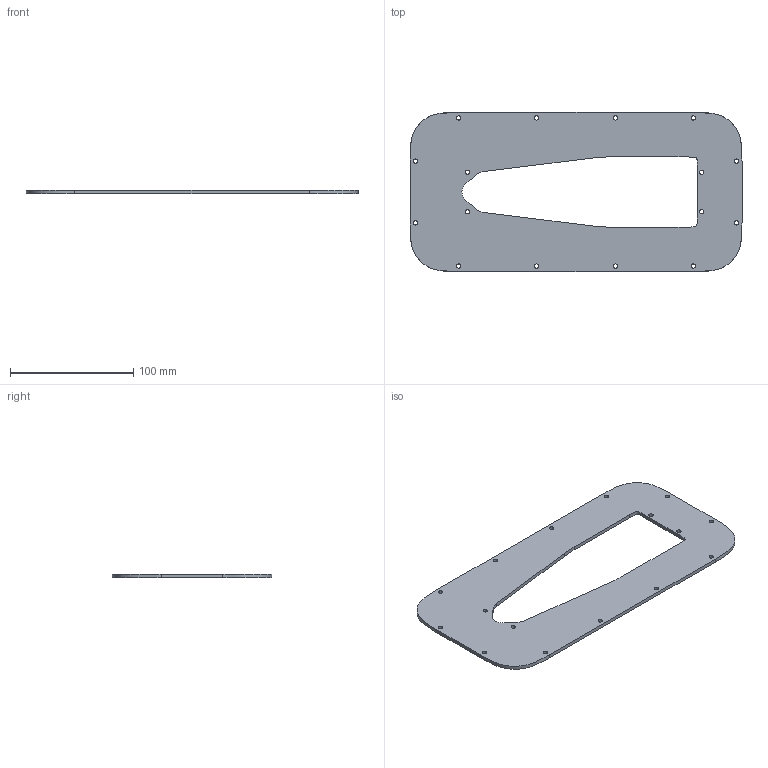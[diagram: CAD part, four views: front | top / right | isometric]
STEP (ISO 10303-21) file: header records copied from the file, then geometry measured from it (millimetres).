
FILE_DESCRIPTION(/* description */ (''),/* implementation_level */ '2;1');
FILE_NAME(/* name */ 'BOTTOM PANEL.step',/* time_stamp */ '2024-02-28T17:16:14Z',/* author */ (''),/* organization */ (''),/* preprocessor_version */ 'ST-DEVELOPER v20',/* originating_system */ 'Autodesk Translation Framework v12.20.1.177',/* authorisation */ '');
FILE_SCHEMA (('AUTOMOTIVE_DESIGN { 1 0 10303 214 3 1 1 }'));
Length unit declared in the file: millimetre
Products named in the file (1): BOTTOM PANEL
Bounding box: 269 x 129 x 3 mm (x, y, z)
Volume: 74058.2 mm3; surface area: 53506.3 mm2
Topology: 1 solids, 1 shells, 40 faces, 114 edges, 76 vertices
Faces by surface type: cylinder 21, plane 13, bspline 6
Full cylindrical faces by diameter (mm): 3.5 x16
Entity records: 1784 total; most frequent: CARTESIAN_POINT 629, ORIENTED_EDGE 228, DIRECTION 214, EDGE_CURVE 114, AXIS2_PLACEMENT_3D 77, VERTEX_POINT 76, EDGE_LOOP 74, LINE 60
